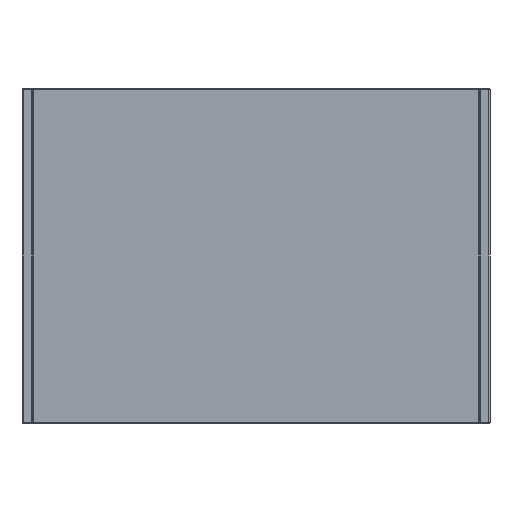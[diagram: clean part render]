
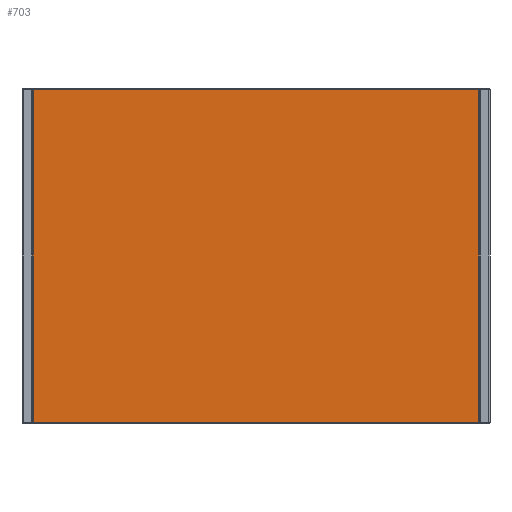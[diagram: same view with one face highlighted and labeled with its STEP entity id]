
A CAD part, front view. The second image highlights one B-rep face of the part: STEP entity #703.
In plain terms, the highlighted planar face has unit normal (0, -1, 0).
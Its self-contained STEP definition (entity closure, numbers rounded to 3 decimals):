
#31 = DIRECTION ( 'NONE',  ( 1., 0., 0. ) ) ;
#36 = ORIENTED_EDGE ( 'NONE', *, *, #1088, .T. ) ;
#177 = LINE ( 'NONE', #374, #660 ) ;
#189 = DIRECTION ( 'NONE',  ( -1., 0., 0. ) ) ;
#278 = EDGE_CURVE ( 'NONE', #1392, #1154, #283, .T. ) ;
#283 = LINE ( 'NONE', #2426, #2266 ) ;
#322 = LINE ( 'NONE', #586, #405 ) ;
#374 = CARTESIAN_POINT ( 'NONE',  ( -214., 0., 159. ) ) ;
#405 = VECTOR ( 'NONE', #1521, 1000. ) ;
#494 = EDGE_LOOP ( 'NONE', ( #1717, #1634, #36, #1990 ) ) ;
#586 = CARTESIAN_POINT ( 'NONE',  ( 213., 0., 160. ) ) ;
#660 = VECTOR ( 'NONE', #189, 1000. ) ;
#703 = ADVANCED_FACE ( 'NONE', ( #1183 ), #2154, .T. ) ;
#941 = DIRECTION ( 'NONE',  ( 0., -1., 0. ) ) ;
#1088 = EDGE_CURVE ( 'NONE', #1154, #2808, #322, .T. ) ;
#1154 = VERTEX_POINT ( 'NONE', #2242 ) ;
#1183 = FACE_OUTER_BOUND ( 'NONE', #494, .T. ) ;
#1208 = AXIS2_PLACEMENT_3D ( 'NONE', #3087, #941, #2862 ) ;
#1261 = EDGE_CURVE ( 'NONE', #2808, #2805, #177, .T. ) ;
#1392 = VERTEX_POINT ( 'NONE', #2637 ) ;
#1397 = CARTESIAN_POINT ( 'NONE',  ( -213., 0., 159. ) ) ;
#1480 = CARTESIAN_POINT ( 'NONE',  ( -213., 0., -160. ) ) ;
#1521 = DIRECTION ( 'NONE',  ( 0., 0., 1. ) ) ;
#1634 = ORIENTED_EDGE ( 'NONE', *, *, #278, .T. ) ;
#1717 = ORIENTED_EDGE ( 'NONE', *, *, #2268, .T. ) ;
#1961 = CARTESIAN_POINT ( 'NONE',  ( 213., 0., 159. ) ) ;
#1990 = ORIENTED_EDGE ( 'NONE', *, *, #1261, .T. ) ;
#2154 = PLANE ( 'NONE',  #1208 ) ;
#2242 = CARTESIAN_POINT ( 'NONE',  ( 213., 0., -159. ) ) ;
#2266 = VECTOR ( 'NONE', #31, 1000. ) ;
#2268 = EDGE_CURVE ( 'NONE', #2805, #1392, #2866, .T. ) ;
#2339 = VECTOR ( 'NONE', #2437, 1000. ) ;
#2426 = CARTESIAN_POINT ( 'NONE',  ( 214., 0., -159. ) ) ;
#2437 = DIRECTION ( 'NONE',  ( 0., 0., -1. ) ) ;
#2637 = CARTESIAN_POINT ( 'NONE',  ( -213., 0., -159. ) ) ;
#2805 = VERTEX_POINT ( 'NONE', #1397 ) ;
#2808 = VERTEX_POINT ( 'NONE', #1961 ) ;
#2862 = DIRECTION ( 'NONE',  ( 0., 0., -1. ) ) ;
#2866 = LINE ( 'NONE', #1480, #2339 ) ;
#3087 = CARTESIAN_POINT ( 'NONE',  ( 0., 0., 0. ) ) ;
